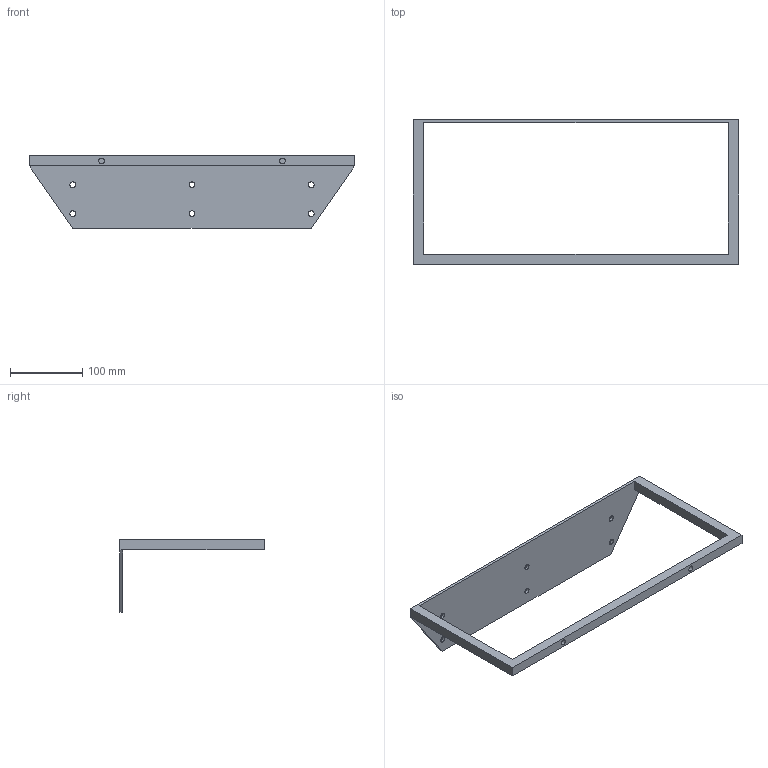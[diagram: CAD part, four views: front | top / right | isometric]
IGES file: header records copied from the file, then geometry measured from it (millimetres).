
Start section: SolidWorks IGES file using NURBS representation for surfaces
Global section: file name: G:\VICCARBE\PRODUCTOS\20-DO IT\04-MODELADOS (PLANOS)\SOLIDWORKS\Contenedores\IGES\VICCARBE_DOL20.IGS; native system: SolidWorks 2009; preprocessor: SolidWorks 2009; author: RUBEN; date: 111102.124100; units: millimetre
Bounding box: 450 x 200 x 100 mm (x, y, z)
Surface area: 129445.5 mm2 (no closed solid volume)
Topology: 0 solids, 0 shells, 31 faces, 644 edges, 644 vertices
Faces by surface type: bspline 31
